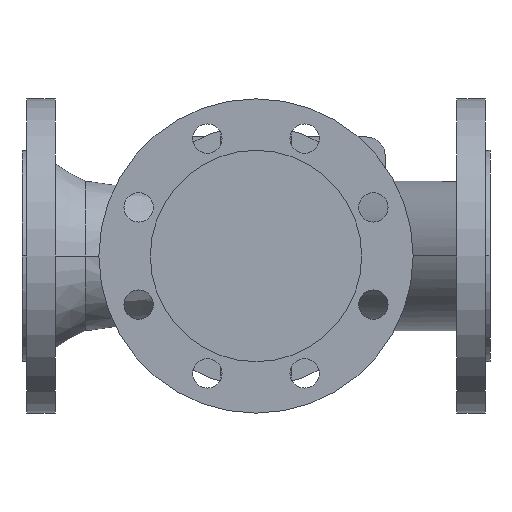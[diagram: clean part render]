
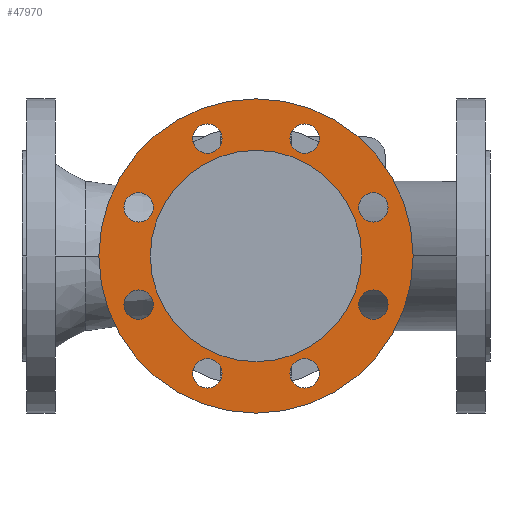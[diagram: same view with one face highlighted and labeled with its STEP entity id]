
A CAD part, front view. The second image highlights one B-rep face of the part: STEP entity #47970.
In plain terms, the highlighted planar face has unit normal (0, -1, 0).
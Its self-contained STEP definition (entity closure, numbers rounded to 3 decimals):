
#3160=CARTESIAN_POINT('',(254.,-146.5,0.));
#3170=VERTEX_POINT('',#3160);
#3220=CARTESIAN_POINT('',(175.,-146.5,0.));
#3230=DIRECTION('',(0.,-1.,0.));
#3240=DIRECTION('',(1.,0.,0.));
#3250=AXIS2_PLACEMENT_3D('',#3220,#3230,#3240);
#3260=CIRCLE('',#3250,79.);
#3270=CARTESIAN_POINT('',(96.,-146.5,0.));
#3280=VERTEX_POINT('',#3270);
#3290=EDGE_CURVE('',#3280,#3170,#3260,.T.);
#10230=CARTESIAN_POINT('',(292.5,-146.5,0.));
#10240=VERTEX_POINT('',#10230);
#10270=CARTESIAN_POINT('',(175.,-146.5,0.));
#10280=DIRECTION('',(0.,1.,0.));
#10290=DIRECTION('',(1.,0.,0.));
#10300=AXIS2_PLACEMENT_3D('',#10270,#10280,#10290);
#10310=CIRCLE('',#10300,117.5);
#10320=CARTESIAN_POINT('',(57.5,-146.5,0.));
#10330=VERTEX_POINT('',#10320);
#10340=EDGE_CURVE('',#10330,#10240,#10310,.T.);
#10650=CARTESIAN_POINT('',(273.769,-146.5,-36.355));
#10660=VERTEX_POINT('',#10650);
#10820=CARTESIAN_POINT('',(251.769,-146.5,-36.355));
#10830=VERTEX_POINT('',#10820);
#10860=CARTESIAN_POINT('',(262.769,-146.5,-36.355));
#10870=DIRECTION('',(0.,1.,0.));
#10880=DIRECTION('',(1.,0.,0.));
#10890=AXIS2_PLACEMENT_3D('',#10860,#10870,#10880);
#10900=CIRCLE('',#10890,11.);
#10910=EDGE_CURVE('',#10830,#10660,#10900,.T.);
#11070=CARTESIAN_POINT('',(251.769,-146.5,36.355));
#11080=VERTEX_POINT('',#11070);
#11110=CARTESIAN_POINT('',(262.769,-146.5,36.355));
#11120=DIRECTION('',(0.,1.,0.));
#11130=DIRECTION('',(1.,0.,0.));
#11140=AXIS2_PLACEMENT_3D('',#11110,#11120,#11130);
#11150=CIRCLE('',#11140,11.);
#11160=CARTESIAN_POINT('',(273.769,-146.5,36.355));
#11170=VERTEX_POINT('',#11160);
#11180=EDGE_CURVE('',#11080,#11170,#11150,.T.);
#11490=CARTESIAN_POINT('',(222.355,-146.5,-87.769));
#11500=VERTEX_POINT('',#11490);
#11660=CARTESIAN_POINT('',(200.355,-146.5,-87.769));
#11670=VERTEX_POINT('',#11660);
#11700=CARTESIAN_POINT('',(211.355,-146.5,-87.769));
#11710=DIRECTION('',(0.,1.,0.));
#11720=DIRECTION('',(1.,0.,0.));
#11730=AXIS2_PLACEMENT_3D('',#11700,#11710,#11720);
#11740=CIRCLE('',#11730,11.);
#11750=EDGE_CURVE('',#11670,#11500,#11740,.T.);
#11910=CARTESIAN_POINT('',(222.355,-146.5,87.769));
#11920=VERTEX_POINT('',#11910);
#12080=CARTESIAN_POINT('',(200.355,-146.5,87.769));
#12090=VERTEX_POINT('',#12080);
#12120=CARTESIAN_POINT('',(211.355,-146.5,87.769));
#12130=DIRECTION('',(0.,1.,0.));
#12140=DIRECTION('',(1.,0.,0.));
#12150=AXIS2_PLACEMENT_3D('',#12120,#12130,#12140);
#12160=CIRCLE('',#12150,11.);
#12170=EDGE_CURVE('',#12090,#11920,#12160,.T.);
#12330=CARTESIAN_POINT('',(149.645,-146.5,-87.769));
#12340=VERTEX_POINT('',#12330);
#12500=CARTESIAN_POINT('',(127.645,-146.5,-87.769));
#12510=VERTEX_POINT('',#12500);
#12540=CARTESIAN_POINT('',(138.645,-146.5,-87.769));
#12550=DIRECTION('',(0.,1.,0.));
#12560=DIRECTION('',(1.,0.,0.));
#12570=AXIS2_PLACEMENT_3D('',#12540,#12550,#12560);
#12580=CIRCLE('',#12570,11.);
#12590=EDGE_CURVE('',#12510,#12340,#12580,.T.);
#12750=CARTESIAN_POINT('',(149.645,-146.5,87.769));
#12760=VERTEX_POINT('',#12750);
#12920=CARTESIAN_POINT('',(127.645,-146.5,87.769));
#12930=VERTEX_POINT('',#12920);
#12960=CARTESIAN_POINT('',(138.645,-146.5,87.769));
#12970=DIRECTION('',(0.,1.,0.));
#12980=DIRECTION('',(1.,0.,0.));
#12990=AXIS2_PLACEMENT_3D('',#12960,#12970,#12980);
#13000=CIRCLE('',#12990,11.);
#13010=EDGE_CURVE('',#12930,#12760,#13000,.T.);
#13170=CARTESIAN_POINT('',(76.231,-146.5,-36.355));
#13180=VERTEX_POINT('',#13170);
#13340=CARTESIAN_POINT('',(98.231,-146.5,-36.355));
#13350=VERTEX_POINT('',#13340);
#13380=CARTESIAN_POINT('',(87.231,-146.5,-36.355));
#13390=DIRECTION('',(0.,1.,0.));
#13400=DIRECTION('',(1.,0.,0.));
#13410=AXIS2_PLACEMENT_3D('',#13380,#13390,#13400);
#13420=CIRCLE('',#13410,11.);
#13430=EDGE_CURVE('',#13350,#13180,#13420,.T.);
#13590=CARTESIAN_POINT('',(98.231,-146.5,36.355));
#13600=VERTEX_POINT('',#13590);
#13760=CARTESIAN_POINT('',(76.231,-146.5,36.355));
#13770=VERTEX_POINT('',#13760);
#13800=CARTESIAN_POINT('',(87.231,-146.5,36.355));
#13810=DIRECTION('',(0.,1.,0.));
#13820=DIRECTION('',(1.,0.,0.));
#13830=AXIS2_PLACEMENT_3D('',#13800,#13810,#13820);
#13840=CIRCLE('',#13830,11.);
#13850=EDGE_CURVE('',#13770,#13600,#13840,.T.);
#47420=CARTESIAN_POINT('',(175.,-146.5,0.));
#47430=DIRECTION('',(0.,1.,0.));
#47440=DIRECTION('',(0.,0.,1.));
#47450=AXIS2_PLACEMENT_3D('',#47420,#47430,#47440);
#47460=PLANE('',#47450);
#47470=EDGE_CURVE('',#13600,#13770,#13840,.T.);
#47480=ORIENTED_EDGE('',*,*,#47470,.T.);
#47490=ORIENTED_EDGE('',*,*,#13850,.T.);
#47500=EDGE_LOOP('',(#47490,#47480));
#47510=FACE_BOUND('',#47500,.T.);
#47520=EDGE_CURVE('',#13180,#13350,#13420,.T.);
#47530=ORIENTED_EDGE('',*,*,#47520,.T.);
#47540=ORIENTED_EDGE('',*,*,#13430,.T.);
#47550=EDGE_LOOP('',(#47540,#47530));
#47560=FACE_BOUND('',#47550,.T.);
#47570=EDGE_CURVE('',#12760,#12930,#13000,.T.);
#47580=ORIENTED_EDGE('',*,*,#47570,.T.);
#47590=ORIENTED_EDGE('',*,*,#13010,.T.);
#47600=EDGE_LOOP('',(#47590,#47580));
#47610=FACE_BOUND('',#47600,.T.);
#47620=EDGE_CURVE('',#12340,#12510,#12580,.T.);
#47630=ORIENTED_EDGE('',*,*,#47620,.T.);
#47640=ORIENTED_EDGE('',*,*,#12590,.T.);
#47650=EDGE_LOOP('',(#47640,#47630));
#47660=FACE_BOUND('',#47650,.T.);
#47670=EDGE_CURVE('',#11920,#12090,#12160,.T.);
#47680=ORIENTED_EDGE('',*,*,#47670,.T.);
#47690=ORIENTED_EDGE('',*,*,#12170,.T.);
#47700=EDGE_LOOP('',(#47690,#47680));
#47710=FACE_BOUND('',#47700,.T.);
#47720=EDGE_CURVE('',#11500,#11670,#11740,.T.);
#47730=ORIENTED_EDGE('',*,*,#47720,.T.);
#47740=ORIENTED_EDGE('',*,*,#11750,.T.);
#47750=EDGE_LOOP('',(#47740,#47730));
#47760=FACE_BOUND('',#47750,.T.);
#47770=EDGE_CURVE('',#11170,#11080,#11150,.T.);
#47780=ORIENTED_EDGE('',*,*,#47770,.T.);
#47790=ORIENTED_EDGE('',*,*,#11180,.T.);
#47800=EDGE_LOOP('',(#47790,#47780));
#47810=FACE_BOUND('',#47800,.T.);
#47820=EDGE_CURVE('',#10660,#10830,#10900,.T.);
#47830=ORIENTED_EDGE('',*,*,#47820,.T.);
#47840=ORIENTED_EDGE('',*,*,#10910,.T.);
#47850=EDGE_LOOP('',(#47840,#47830));
#47860=FACE_BOUND('',#47850,.T.);
#47870=EDGE_CURVE('',#10240,#10330,#10310,.T.);
#47880=ORIENTED_EDGE('',*,*,#47870,.F.);
#47890=ORIENTED_EDGE('',*,*,#10340,.F.);
#47900=EDGE_LOOP('',(#47890,#47880));
#47910=FACE_OUTER_BOUND('',#47900,.T.);
#47920=EDGE_CURVE('',#3170,#3280,#3260,.T.);
#47930=ORIENTED_EDGE('',*,*,#47920,.F.);
#47940=ORIENTED_EDGE('',*,*,#3290,.F.);
#47950=EDGE_LOOP('',(#47940,#47930));
#47960=FACE_BOUND('',#47950,.T.);
#47970=ADVANCED_FACE('',(#47510,#47560,#47610,#47660,#47710,#47760,
#47810,#47860,#47910,#47960),#47460,.F.);
